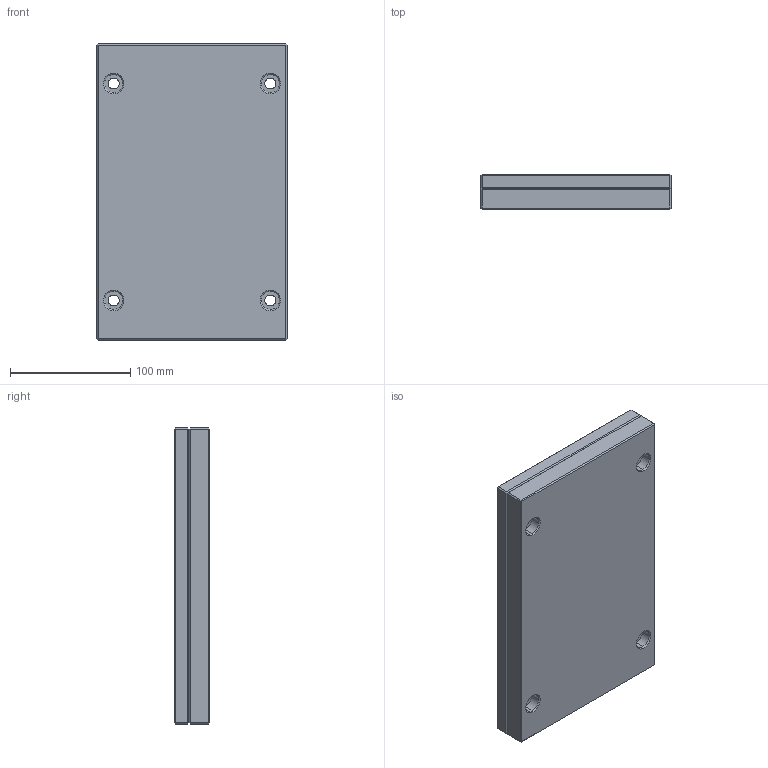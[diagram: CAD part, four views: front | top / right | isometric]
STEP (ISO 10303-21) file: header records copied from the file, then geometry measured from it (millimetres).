
FILE_DESCRIPTION (( 'STEP AP214' ), '1' );
FILE_NAME ('CPE-246x246.STEP', '2020-04-06T14:45:19', ( 'August' ), ( '' ), 'SwSTEP 2.0', 'SolidWorks 2018', '' );
FILE_SCHEMA (( 'AUTOMOTIVE_DESIGN' ));
Length unit declared in the file: millimetre
Products named in the file (1): CPE-246x246
Bounding box: 158 x 29 x 246 mm (x, y, z)
Volume: 1113898.4 mm3; surface area: 179711 mm2
Topology: 2 solids, 2 shells, 96 faces, 200 edges, 112 vertices
Faces by surface type: plane 56, cylinder 24, cone 16
Entity records: 2551 total; most frequent: DIRECTION 458, CARTESIAN_POINT 409, ORIENTED_EDGE 400, EDGE_CURVE 200, AXIS2_PLACEMENT_3D 161, VECTOR 136, LINE 136, EDGE_LOOP 116
